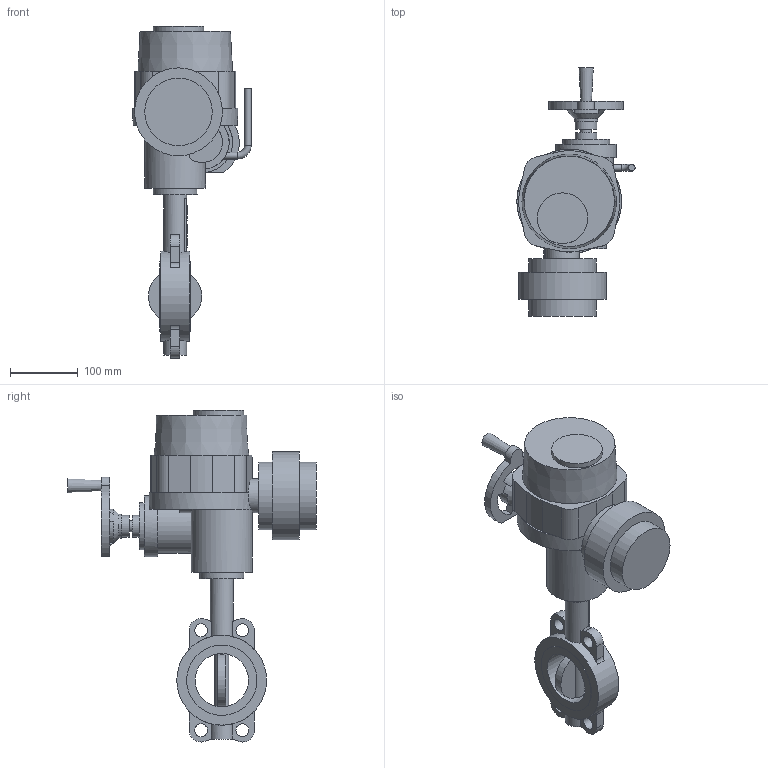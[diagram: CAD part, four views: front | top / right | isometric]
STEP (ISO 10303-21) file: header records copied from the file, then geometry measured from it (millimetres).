
FILE_DESCRIPTION(('STEP AP203'), '1');
FILE_NAME('Çàòâîð 017W.Z(ñòàëü) DN80+ÝÏ QT.A005', '', ('UNSPECIFIED'), ('UNSPECIFIED'), 'ASCON STEP Converter 1.6', 'ASCON Math Kernel', '');
FILE_SCHEMA(('CONFIG_CONTROL_DESIGN'));
Length unit declared in the file: millimetre
Bounding box: 175 x 368 x 491.41 mm (x, y, z)
Volume: 5200318.3 mm3; surface area: 327103.8 mm2
Topology: 1 solids, 1 shells, 727 faces, 2022 edges, 1341 vertices
Faces by surface type: cylinder 475, plane 248, cone 3, torus 1
Full cylindrical faces by diameter (mm): 6.7 x8, 8 x4, 10 x2, 16 x1, 19 x4, 21 x1, 32 x2, 34 x1, 35 x1, 50 x1, 65 x1, 70 x1, 75 x1, 79.1 x1, 90 x2, 100 x2, 104 x2, 130 x1, 133 x1
Entity records: 30623 total; most frequent: CARTESIAN_POINT 5310, DIRECTION 4402, ORIENTED_EDGE 3962, EDGE_CURVE 1981, AXIS2_PLACEMENT_3D 1721, VERTEX_POINT 1341, CIRCLE 993, LINE 960
